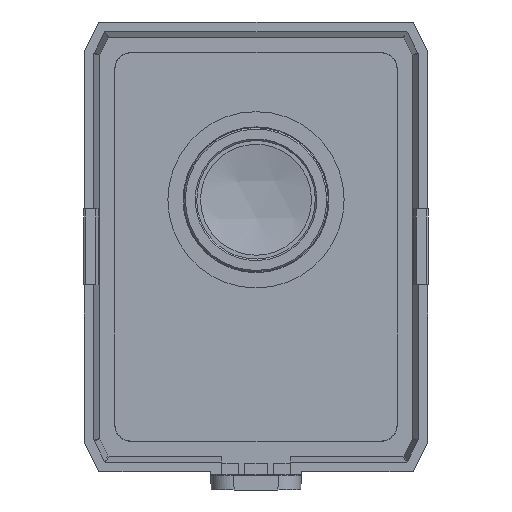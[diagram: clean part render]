
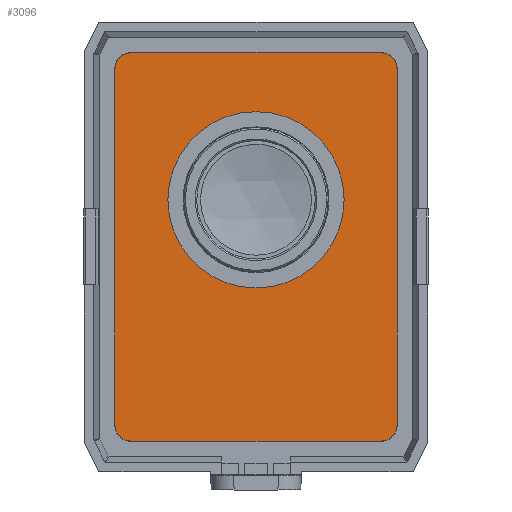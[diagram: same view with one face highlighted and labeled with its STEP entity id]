
A CAD part, front view. The second image highlights one B-rep face of the part: STEP entity #3096.
In plain terms, the highlighted planar face has unit normal (0, -1, 0).
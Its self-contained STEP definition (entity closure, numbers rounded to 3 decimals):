
#847=CARTESIAN_POINT('',(-280.64,204.865,-192.092));
#848=DIRECTION('',(0.,-1.,0.));
#849=DIRECTION('',(1.,0.,0.));
#850=AXIS2_PLACEMENT_3D('',#847,#848,#849);
#852=CARTESIAN_POINT('',(-280.64,204.865,-192.092));
#853=DIRECTION('',(0.,-1.,0.));
#854=DIRECTION('',(-1.,0.,0.));
#855=AXIS2_PLACEMENT_3D('',#852,#853,#854);
#857=CARTESIAN_POINT('',(-297.102,204.865,-221.754));
#858=DIRECTION('',(0.,-1.,0.));
#859=DIRECTION('',(-1.,0.,0.));
#860=AXIS2_PLACEMENT_3D('',#857,#858,#859);
#887=DIRECTION('',(1.,0.,0.));
#888=VECTOR('',#887,32.924);
#889=CARTESIAN_POINT('',(-297.102,204.865,-224.058));
#890=LINE('',#889,#888);
#895=CARTESIAN_POINT('',(-264.178,204.865,-221.754));
#896=DIRECTION('',(0.,-1.,0.));
#897=DIRECTION('',(0.,0.,-1.));
#898=AXIS2_PLACEMENT_3D('',#895,#896,#897);
#925=DIRECTION('',(0.,0.,1.));
#926=VECTOR('',#925,46.924);
#927=CARTESIAN_POINT('',(-261.875,204.865,-221.754));
#928=LINE('',#927,#926);
#933=CARTESIAN_POINT('',(-264.178,204.865,-174.831));
#934=DIRECTION('',(0.,-1.,0.));
#935=DIRECTION('',(1.,0.,0.));
#936=AXIS2_PLACEMENT_3D('',#933,#934,#935);
#963=DIRECTION('',(-1.,0.,0.));
#964=VECTOR('',#963,32.924);
#965=CARTESIAN_POINT('',(-264.178,204.865,-172.527));
#966=LINE('',#965,#964);
#971=CARTESIAN_POINT('',(-297.102,204.865,-174.831));
#972=DIRECTION('',(0.,-1.,0.));
#973=DIRECTION('',(0.,0.,1.));
#974=AXIS2_PLACEMENT_3D('',#971,#972,#973);
#1001=DIRECTION('',(0.,0.,-1.));
#1002=VECTOR('',#1001,46.924);
#1003=CARTESIAN_POINT('',(-299.405,204.865,
-174.831));
#1004=LINE('',#1003,#1002);
#1736=CARTESIAN_POINT('',(-269.04,204.865,
-192.092));
#1737=CARTESIAN_POINT('',(-292.24,204.865,
-192.092));
#1738=VERTEX_POINT('',#1736);
#1739=VERTEX_POINT('',#1737);
#1796=CARTESIAN_POINT('',(-299.405,204.865,
-221.754));
#1797=CARTESIAN_POINT('',(-297.102,204.865,
-224.058));
#1798=VERTEX_POINT('',#1796);
#1799=VERTEX_POINT('',#1797);
#1800=CARTESIAN_POINT('',(-264.178,204.865,
-224.058));
#1801=VERTEX_POINT('',#1800);
#1802=CARTESIAN_POINT('',(-261.875,204.865,
-221.754));
#1803=VERTEX_POINT('',#1802);
#1804=CARTESIAN_POINT('',(-261.875,204.865,
-174.831));
#1805=VERTEX_POINT('',#1804);
#1806=CARTESIAN_POINT('',(-264.178,204.865,
-172.527));
#1807=VERTEX_POINT('',#1806);
#1808=CARTESIAN_POINT('',(-297.102,204.865,
-172.527));
#1809=VERTEX_POINT('',#1808);
#1810=CARTESIAN_POINT('',(-299.405,204.865,
-174.831));
#1811=VERTEX_POINT('',#1810);
#3069=CARTESIAN_POINT('',(-280.64,204.865,
-198.292));
#3070=DIRECTION('',(0.,1.,0.));
#3071=DIRECTION('',(0.,0.,-1.));
#3072=AXIS2_PLACEMENT_3D('',#3069,#3070,#3071);
#3073=PLANE('',#3072);
#3075=ORIENTED_EDGE('',*,*,#3074,.F.);
#3077=ORIENTED_EDGE('',*,*,#3076,.F.);
#3079=ORIENTED_EDGE('',*,*,#3078,.F.);
#3081=ORIENTED_EDGE('',*,*,#3080,.F.);
#3083=ORIENTED_EDGE('',*,*,#3082,.F.);
#3085=ORIENTED_EDGE('',*,*,#3084,.F.);
#3087=ORIENTED_EDGE('',*,*,#3086,.F.);
#3089=ORIENTED_EDGE('',*,*,#3088,.F.);
#3090=EDGE_LOOP('',(#3075,#3077,#3079,#3081,#3083,#3085,#3087,#3089));
#3091=FACE_OUTER_BOUND('',#3090,.F.);
#3092=ORIENTED_EDGE('',*,*,#3051,.T.);
#3093=ORIENTED_EDGE('',*,*,#3062,.T.);
#3094=EDGE_LOOP('',(#3092,#3093));
#3095=FACE_BOUND('',#3094,.F.);
#3096=ADVANCED_FACE('',(#3091,#3095),#3073,.F.);
#851=CIRCLE('',#850,11.6);
#856=CIRCLE('',#855,11.6);
#861=CIRCLE('',#860,2.304);
#899=CIRCLE('',#898,2.304);
#937=CIRCLE('',#936,2.304);
#975=CIRCLE('',#974,2.304);
#3051=EDGE_CURVE('',#1738,#1739,#851,.T.);
#3062=EDGE_CURVE('',#1739,#1738,#856,.T.);
#3074=EDGE_CURVE('',#1798,#1799,#861,.T.);
#3076=EDGE_CURVE('',#1811,#1798,#1004,.T.);
#3078=EDGE_CURVE('',#1809,#1811,#975,.T.);
#3080=EDGE_CURVE('',#1807,#1809,#966,.T.);
#3082=EDGE_CURVE('',#1805,#1807,#937,.T.);
#3084=EDGE_CURVE('',#1803,#1805,#928,.T.);
#3086=EDGE_CURVE('',#1801,#1803,#899,.T.);
#3088=EDGE_CURVE('',#1799,#1801,#890,.T.);
